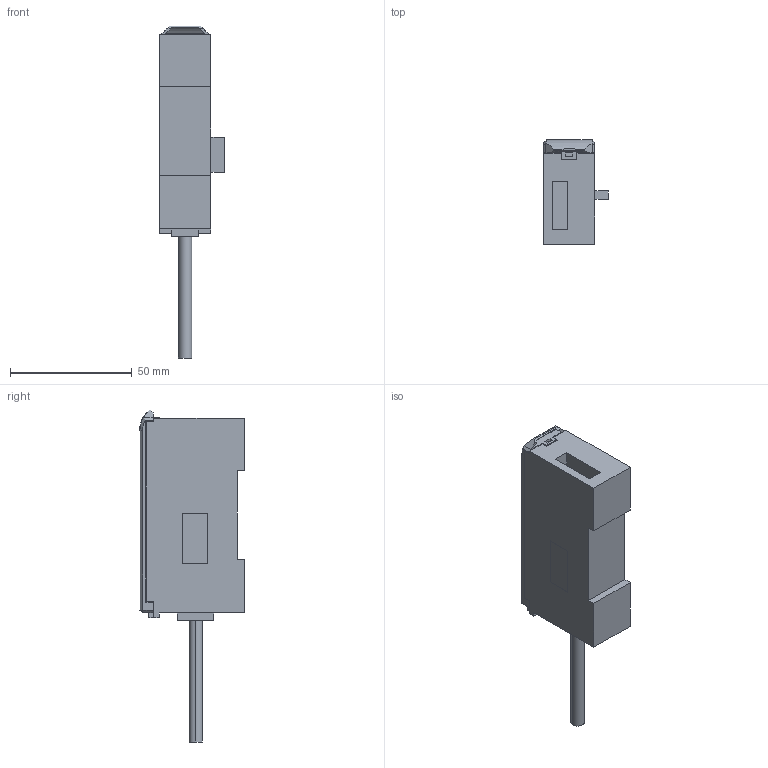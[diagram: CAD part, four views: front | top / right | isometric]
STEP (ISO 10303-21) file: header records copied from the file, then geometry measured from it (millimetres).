
FILE_DESCRIPTION (( 'STEP AP203' ), '1' );
FILE_NAME ('hg-sc111.STEP', '2015-10-02T11:40:05', ( '' ), ( '' ), 'SwSTEP 2.0', 'SolidWorks 2010', '' );
FILE_SCHEMA (( 'CONFIG_CONTROL_DESIGN' ));
Length unit declared in the file: millimetre
Products named in the file (4): hg-sc1_cover; hg-sc111; hg-sc1_cap
Assembly tree (3 placements, depth 2):
  hg-sc111
    hg-sc111
    hg-sc1_cover
    hg-sc1_cap
Bounding box: 26.7 x 43.07 x 136.4 mm (x, y, z)
Volume: 67393.4 mm3; surface area: 18789.4 mm2
Topology: 3 solids, 3 shells, 197 faces, 506 edges, 334 vertices
Faces by surface type: plane 187, cylinder 4, torus 3, bspline 2, cone 1
Entity records: 6323 total; most frequent: CARTESIAN_POINT 1140, ORIENTED_EDGE 1012, DIRECTION 901, EDGE_CURVE 506, LINE 475, VECTOR 475, VERTEX_POINT 334, EDGE_LOOP 218
